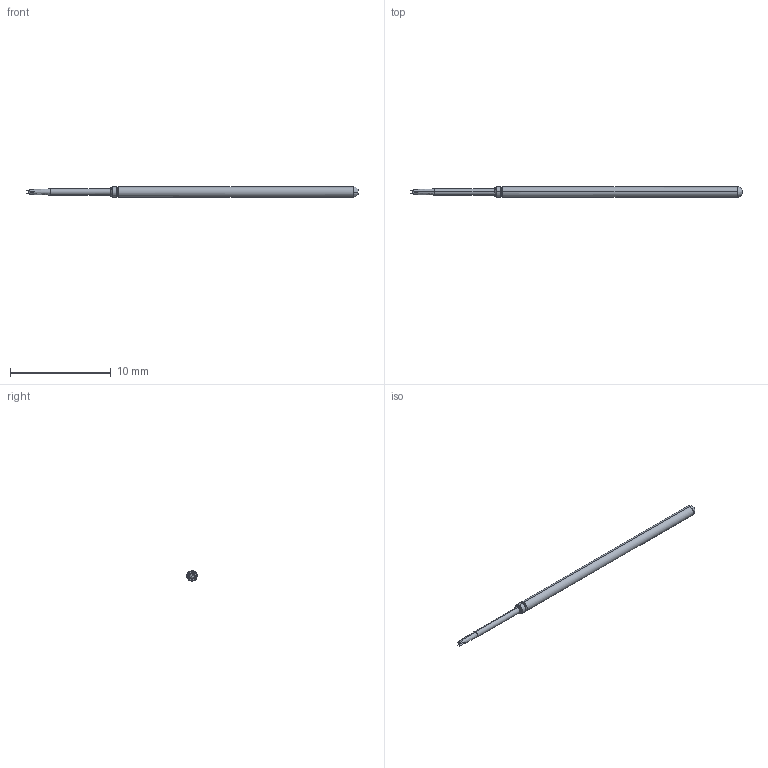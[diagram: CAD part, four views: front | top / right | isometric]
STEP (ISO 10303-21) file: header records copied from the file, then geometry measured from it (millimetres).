
FILE_DESCRIPTION (( 'STEP AP214' ), '1' );
FILE_NAME ('LPA2Q-018.STEP', '2023-06-05T11:05:42', ( '' ), ( '' ), 'SwSTEP 2.0', 'SolidWorks 2022', '' );
FILE_SCHEMA (( 'AUTOMOTIVE_DESIGN' ));
Length unit declared in the file: inch
Products named in the file (1): LPA2Q-018
Bounding box: 33.02 x 1.02 x 1.02 mm (x, y, z)
Volume: 22 mm3; surface area: 94.9 mm2
Topology: 1 solids, 1 shells, 28 faces, 56 edges, 31 vertices
Faces by surface type: bspline 28
Entity records: 955 total; most frequent: CARTESIAN_POINT 579, ORIENTED_EDGE 112, EDGE_CURVE 56, B_SPLINE_CURVE_WITH_KNOTS 34, VERTEX_POINT 31, EDGE_LOOP 29, ADVANCED_FACE 28, FACE_OUTER_BOUND 28
